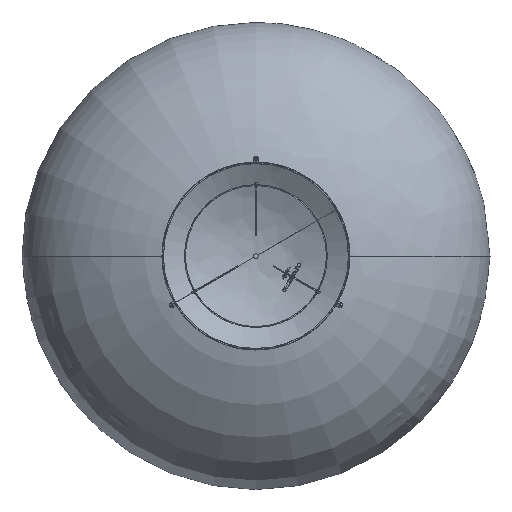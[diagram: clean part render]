
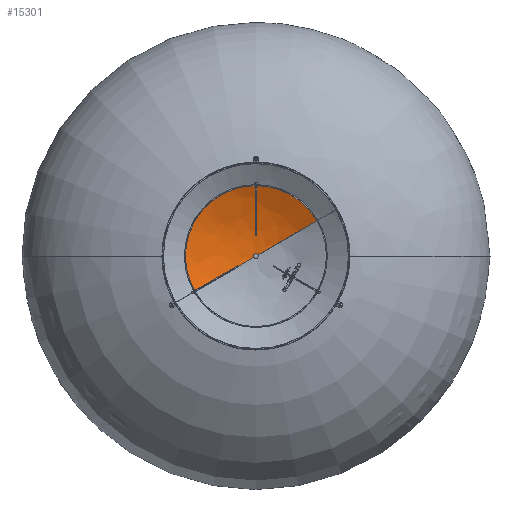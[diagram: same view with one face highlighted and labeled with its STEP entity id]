
A CAD part, top view. The second image highlights one B-rep face of the part: STEP entity #15301.
In plain terms, the highlighted free-form (B-spline) face has degree [3, 3] with [7, 4] control points.
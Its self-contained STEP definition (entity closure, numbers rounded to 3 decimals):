
#2767=CARTESIAN_POINT('',(2.297,120.478,623.093));
#2768=VERTEX_POINT('',#2767);
#2775=CARTESIAN_POINT('',(104.356,60.25,623.093));
#2776=VERTEX_POINT('',#2775);
#2777=CARTESIAN_POINT('',(0.,0.,623.093));
#2778=DIRECTION('',(0.,0.,1.0));
#2779=DIRECTION('',(0.866,0.5,0.));
#2780=AXIS2_PLACEMENT_3D('',#2777,#2778,#2779);
#2781=CIRCLE('',#2780,120.5);
#2782=EDGE_CURVE('',#2776,#2768,#2781,.T.);
#2949=CARTESIAN_POINT('',(-105.728,-57.809,623.093));
#2950=VERTEX_POINT('',#2949);
#2958=CARTESIAN_POINT('',(-2.297,120.478,623.093));
#2959=VERTEX_POINT('',#2958);
#2960=CARTESIAN_POINT('',(0.,0.,623.093));
#2961=DIRECTION('',(0.0,0.,1.0));
#2962=DIRECTION('',(-0.019,1.,0.));
#2963=AXIS2_PLACEMENT_3D('',#2960,#2961,#2962);
#2964=CIRCLE('',#2963,120.5);
#2965=EDGE_CURVE('',#2959,#2950,#2964,.T.);
#3397=CARTESIAN_POINT('',(-101.931,-58.85,621.801));
#3398=VERTEX_POINT('',#3397);
#3399=CARTESIAN_POINT('',(-3.464,-2.,596.327));
#3400=VERTEX_POINT('',#3399);
#3401=CARTESIAN_POINT('',(-0.071,-0.041,880.3));
#3402=DIRECTION('',(0.5,-0.866,0.));
#3403=DIRECTION('',(-0.359,-0.207,-0.91));
#3404=AXIS2_PLACEMENT_3D('',#3401,#3402,#3403);
#3405=CIRCLE('',#3404,284.0);
#3406=EDGE_CURVE('',#3398,#3400,#3405,.T.);
#3408=CARTESIAN_POINT('',(-101.931,-58.85,621.801));
#3409=CARTESIAN_POINT('',(-101.996,-58.737,621.8));
#3410=CARTESIAN_POINT('',(-102.141,-58.522,621.809));
#3411=CARTESIAN_POINT('',(-102.409,-58.225,621.848));
#3412=CARTESIAN_POINT('',(-102.719,-57.966,621.913));
#3413=CARTESIAN_POINT('',(-103.062,-57.756,622.002));
#3414=CARTESIAN_POINT('',(-103.421,-57.601,622.111));
#3415=CARTESIAN_POINT('',(-103.792,-57.499,622.237));
#3416=CARTESIAN_POINT('',(-104.174,-57.447,622.379));
#3417=CARTESIAN_POINT('',(-104.574,-57.449,622.541));
#3418=CARTESIAN_POINT('',(-104.974,-57.509,622.717));
#3419=CARTESIAN_POINT('',(-105.365,-57.628,622.904));
#3420=CARTESIAN_POINT('',(-105.609,-57.742,623.029));
#3421=CARTESIAN_POINT('',(-105.728,-57.809,623.093));
#3422=B_SPLINE_CURVE_WITH_KNOTS('',3,(#3408,#3409,#3410,#3411,#3412,#3413,#3414,#3415,#3416,#3417,#3418,#3419,#3420,#3421),.UNSPECIFIED.,.F.,.U.,(4,1,1,1,1,1,1,1,1,1,1,4),(0.0,0.091,0.182,0.273,0.364,0.455,0.545,0.636,0.727,0.818,0.909,1.0),.UNSPECIFIED.);
#3423=EDGE_CURVE('',#3398,#2950,#3422,.T.);
#3453=CARTESIAN_POINT('',(3.464,2.,596.327));
#3454=VERTEX_POINT('',#3453);
#3455=CARTESIAN_POINT('',(0.071,0.041,880.3));
#3456=DIRECTION('',(-0.5,0.866,0.));
#3457=DIRECTION('',(0.367,0.212,-0.906));
#3458=AXIS2_PLACEMENT_3D('',#3455,#3456,#3457);
#3459=CIRCLE('',#3458,284.0);
#3460=EDGE_CURVE('',#2776,#3454,#3459,.T.);
#15227=CARTESIAN_POINT('',(-131.222,-92.678,646.049));
#15228=CARTESIAN_POINT('',(-229.526,46.508,646.049));
#15229=CARTESIAN_POINT('',(-137.246,189.759,646.049));
#15230=CARTESIAN_POINT('',(30.131,157.8,646.049));
#15231=CARTESIAN_POINT('',(197.508,125.84,646.049));
#15232=CARTESIAN_POINT('',(230.514,-41.334,646.049));
#15233=CARTESIAN_POINT('',(87.842,-134.508,646.049));
#15234=CARTESIAN_POINT('',(-92.461,-65.303,613.521));
#15235=CARTESIAN_POINT('',(-161.727,32.77,613.521));
#15236=CARTESIAN_POINT('',(-96.706,133.707,613.521));
#15237=CARTESIAN_POINT('',(21.231,111.188,613.521));
#15238=CARTESIAN_POINT('',(139.167,88.669,613.521));
#15239=CARTESIAN_POINT('',(162.424,-29.124,613.521));
#15240=CARTESIAN_POINT('',(61.895,-94.776,613.521));
#15241=CARTESIAN_POINT('',(-47.59,-33.611,596.432));
#15242=CARTESIAN_POINT('',(-83.241,16.867,596.432));
#15243=CARTESIAN_POINT('',(-49.774,68.819,596.432));
#15244=CARTESIAN_POINT('',(10.927,57.228,596.432));
#15245=CARTESIAN_POINT('',(71.629,45.638,596.432));
#15246=CARTESIAN_POINT('',(83.599,-14.99,596.432));
#15247=CARTESIAN_POINT('',(31.857,-48.781,596.432));
#15248=CARTESIAN_POINT('',(-0.597,-0.422,596.301));
#15249=CARTESIAN_POINT('',(-1.044,0.212,596.301));
#15250=CARTESIAN_POINT('',(-0.624,0.863,596.301));
#15251=CARTESIAN_POINT('',(0.137,0.718,596.301));
#15252=CARTESIAN_POINT('',(0.898,0.572,596.301));
#15253=CARTESIAN_POINT('',(1.049,-0.188,596.301));
#15254=CARTESIAN_POINT('',(0.4,-0.612,596.301));
#15262=(BOUNDED_SURFACE()B_SPLINE_SURFACE(3,3,((#15227,#15234,#15241,#15248),(#15228,#15235,#15242,#15249),(#15229,#15236,#15243,#15250),(#15230,#15237,#15244,#15251),(#15231,#15238,#15245,#15252),(#15232,#15239,#15246,#15253),(#15233,#15240,#15247,#15254)),.UNSPECIFIED.,.F.,.F.,.U.)B_SPLINE_SURFACE_WITH_KNOTS((4,3,4),(4,4),(0.0,1.,2.0),(0.0,1.0),.UNSPECIFIED.)GEOMETRIC_REPRESENTATION_ITEM()RATIONAL_B_SPLINE_SURFACE(((1.488,1.444,1.444,1.488),(0.868,0.842,0.842,0.868),(0.868,0.842,0.842,0.868),(1.488,1.444,1.444,1.488),(0.868,0.842,0.842,0.868),(0.868,0.842,0.842,0.868),(1.488,1.444,1.444,1.488)))REPRESENTATION_ITEM('')SURFACE());
#15263=ORIENTED_EDGE('',*,*,#3460,.F.);
#15264=ORIENTED_EDGE('',*,*,#2782,.T.);
#15265=CARTESIAN_POINT('',(2.297,120.478,623.093));
#15266=CARTESIAN_POINT('',(2.297,120.334,623.026));
#15267=CARTESIAN_POINT('',(2.27,120.049,622.892));
#15268=CARTESIAN_POINT('',(2.152,119.642,622.702));
#15269=CARTESIAN_POINT('',(1.965,119.267,622.527));
#15270=CARTESIAN_POINT('',(1.72,118.94,622.374));
#15271=CARTESIAN_POINT('',(1.427,118.666,622.246));
#15272=CARTESIAN_POINT('',(1.101,118.452,622.147));
#15273=CARTESIAN_POINT('',(0.747,118.297,622.074));
#15274=CARTESIAN_POINT('',(0.378,118.205,622.031));
#15275=CARTESIAN_POINT('',(0.,118.173,622.016));
#15276=CARTESIAN_POINT('',(-0.378,118.205,622.031));
#15277=CARTESIAN_POINT('',(-0.747,118.297,622.074));
#15278=CARTESIAN_POINT('',(-1.101,118.452,622.147));
#15279=CARTESIAN_POINT('',(-1.427,118.666,622.246));
#15280=CARTESIAN_POINT('',(-1.72,118.94,622.374));
#15281=CARTESIAN_POINT('',(-1.965,119.267,622.527));
#15282=CARTESIAN_POINT('',(-2.152,119.642,622.702));
#15283=CARTESIAN_POINT('',(-2.27,120.049,622.892));
#15284=CARTESIAN_POINT('',(-2.297,120.334,623.026));
#15285=CARTESIAN_POINT('',(-2.297,120.478,623.093));
#15286=B_SPLINE_CURVE_WITH_KNOTS('',3,(#15265,#15266,#15267,#15268,#15269,#15270,#15271,#15272,#15273,#15274,#15275,#15276,#15277,#15278,#15279,#15280,#15281,#15282,#15283,#15284,#15285),.UNSPECIFIED.,.F.,.U.,(4,1,1,1,1,1,1,1,1,1,1,1,1,1,1,1,1,1,4),(0.0,0.056,0.111,0.167,0.222,0.278,0.333,0.389,0.444,0.5,0.556,0.611,0.667,0.722,0.778,0.833,0.889,0.944,1.0),.UNSPECIFIED.);
#15287=EDGE_CURVE('',#2768,#2959,#15286,.T.);
#15288=ORIENTED_EDGE('',*,*,#15287,.T.);
#15289=ORIENTED_EDGE('',*,*,#2965,.T.);
#15290=ORIENTED_EDGE('',*,*,#3423,.F.);
#15291=ORIENTED_EDGE('',*,*,#3406,.T.);
#15292=CARTESIAN_POINT('',(0.,0.,596.327));
#15293=DIRECTION('',(0.,0.,1.0));
#15294=DIRECTION('',(0.866,0.5,0.));
#15295=AXIS2_PLACEMENT_3D('',#15292,#15293,#15294);
#15296=CIRCLE('',#15295,4.0);
#15297=EDGE_CURVE('',#3454,#3400,#15296,.T.);
#15298=ORIENTED_EDGE('',*,*,#15297,.F.);
#15299=EDGE_LOOP('',(#15263,#15264,#15288,#15289,#15290,#15291,#15298));
#15300=FACE_OUTER_BOUND('',#15299,.T.);
#15301=ADVANCED_FACE('',(#15300),#15262,.F.);
